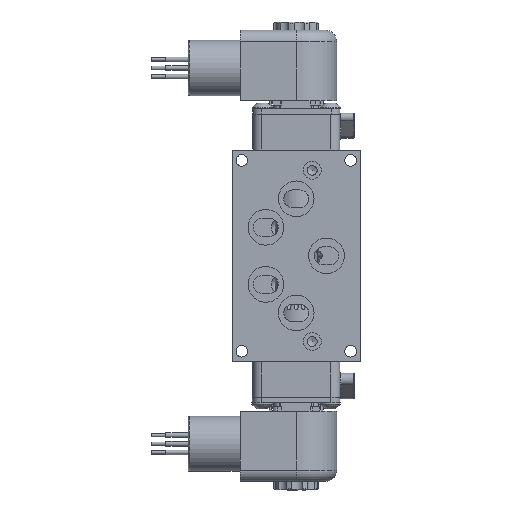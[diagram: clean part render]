
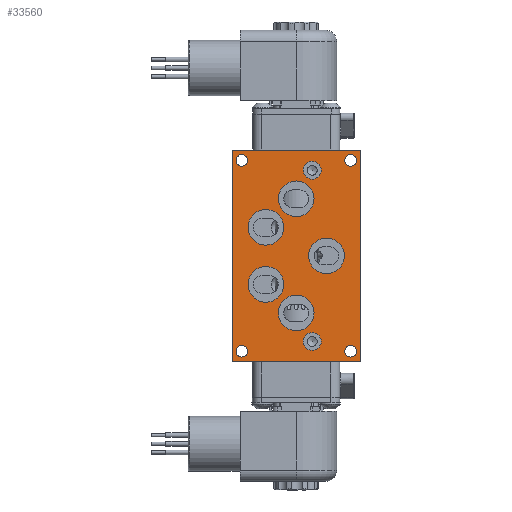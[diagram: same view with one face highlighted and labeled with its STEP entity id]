
A CAD part, front view. The second image highlights one B-rep face of the part: STEP entity #33560.
In plain terms, the highlighted planar face has unit normal (0, -1, 0).
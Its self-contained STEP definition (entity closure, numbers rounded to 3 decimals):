
#1114=FACE_BOUND('',#4889,.T.);
#1115=FACE_BOUND('',#4890,.T.);
#1116=FACE_BOUND('',#4891,.T.);
#1117=FACE_BOUND('',#4892,.T.);
#1118=FACE_BOUND('',#4893,.T.);
#1119=FACE_BOUND('',#4894,.T.);
#1120=FACE_BOUND('',#4895,.T.);
#1121=FACE_BOUND('',#4896,.T.);
#1122=FACE_BOUND('',#4897,.T.);
#1123=FACE_BOUND('',#4898,.T.);
#1124=FACE_BOUND('',#4899,.T.);
#1549=PLANE('',#36355);
#2810=FACE_OUTER_BOUND('',#4888,.T.);
#4888=EDGE_LOOP('',(#24025,#24026,#24027,#24028));
#4889=EDGE_LOOP('',(#24029));
#4890=EDGE_LOOP('',(#24030));
#4891=EDGE_LOOP('',(#24031));
#4892=EDGE_LOOP('',(#24032));
#4893=EDGE_LOOP('',(#24033));
#4894=EDGE_LOOP('',(#24034));
#4895=EDGE_LOOP('',(#24035));
#4896=EDGE_LOOP('',(#24036));
#4897=EDGE_LOOP('',(#24037));
#4898=EDGE_LOOP('',(#24038));
#4899=EDGE_LOOP('',(#24039));
#7096=CIRCLE('',#36295,0.396);
#7100=CIRCLE('',#36303,0.396);
#7102=CIRCLE('',#36308,0.794);
#7104=CIRCLE('',#36312,0.794);
#7106=CIRCLE('',#36316,0.794);
#7108=CIRCLE('',#36320,0.794);
#7110=CIRCLE('',#36324,0.794);
#7113=CIRCLE('',#36329,0.258);
#7116=CIRCLE('',#36334,0.258);
#7119=CIRCLE('',#36339,0.258);
#7122=CIRCLE('',#36344,0.258);
#8890=LINE('',#53942,#11184);
#8925=LINE('',#54100,#11219);
#9054=LINE('',#55103,#11348);
#9055=LINE('',#55107,#11349);
#11184=VECTOR('',#41641,1.);
#11219=VECTOR('',#41768,1.);
#11348=VECTOR('',#42429,1.);
#11349=VECTOR('',#42436,1.);
#13773=VERTEX_POINT('',#53938);
#13775=VERTEX_POINT('',#53941);
#13850=VERTEX_POINT('',#54096);
#13852=VERTEX_POINT('',#54099);
#14027=VERTEX_POINT('',#54984);
#14032=VERTEX_POINT('',#55000);
#14034=VERTEX_POINT('',#55009);
#14036=VERTEX_POINT('',#55016);
#14038=VERTEX_POINT('',#55023);
#14040=VERTEX_POINT('',#55030);
#14042=VERTEX_POINT('',#55037);
#14046=VERTEX_POINT('',#55049);
#14050=VERTEX_POINT('',#55061);
#14054=VERTEX_POINT('',#55073);
#14058=VERTEX_POINT('',#55085);
#17322=EDGE_CURVE('',#13775,#13773,#8890,.T.);
#17400=EDGE_CURVE('',#13852,#13850,#8925,.T.);
#17647=EDGE_CURVE('',#14027,#14027,#7096,.T.);
#17654=EDGE_CURVE('',#14032,#14032,#7100,.T.);
#17658=EDGE_CURVE('',#14034,#14034,#7102,.T.);
#17661=EDGE_CURVE('',#14036,#14036,#7104,.T.);
#17664=EDGE_CURVE('',#14038,#14038,#7106,.T.);
#17667=EDGE_CURVE('',#14040,#14040,#7108,.T.);
#17670=EDGE_CURVE('',#14042,#14042,#7110,.T.);
#17677=EDGE_CURVE('',#14046,#14046,#7113,.T.);
#17683=EDGE_CURVE('',#14050,#14050,#7116,.T.);
#17689=EDGE_CURVE('',#14054,#14054,#7119,.T.);
#17695=EDGE_CURVE('',#14058,#14058,#7122,.T.);
#17704=EDGE_CURVE('',#13850,#13775,#9054,.T.);
#17705=EDGE_CURVE('',#13773,#13852,#9055,.T.);
#24025=ORIENTED_EDGE('',*,*,#17400,.T.);
#24026=ORIENTED_EDGE('',*,*,#17704,.T.);
#24027=ORIENTED_EDGE('',*,*,#17322,.T.);
#24028=ORIENTED_EDGE('',*,*,#17705,.T.);
#24029=ORIENTED_EDGE('',*,*,#17647,.T.);
#24030=ORIENTED_EDGE('',*,*,#17654,.T.);
#24031=ORIENTED_EDGE('',*,*,#17658,.T.);
#24032=ORIENTED_EDGE('',*,*,#17661,.T.);
#24033=ORIENTED_EDGE('',*,*,#17664,.T.);
#24034=ORIENTED_EDGE('',*,*,#17667,.T.);
#24035=ORIENTED_EDGE('',*,*,#17670,.T.);
#24036=ORIENTED_EDGE('',*,*,#17677,.T.);
#24037=ORIENTED_EDGE('',*,*,#17683,.T.);
#24038=ORIENTED_EDGE('',*,*,#17689,.T.);
#24039=ORIENTED_EDGE('',*,*,#17695,.T.);
#33560=ADVANCED_FACE('',(#2810,#1114,#1115,#1116,#1117,#1118,#1119,#1120,
#1121,#1122,#1123,#1124),#1549,.T.);
#36295=AXIS2_PLACEMENT_3D('',#54985,#42285,#42286);
#36303=AXIS2_PLACEMENT_3D('',#55001,#42304,#42305);
#36308=AXIS2_PLACEMENT_3D('',#55010,#42316,#42317);
#36312=AXIS2_PLACEMENT_3D('',#55017,#42325,#42326);
#36316=AXIS2_PLACEMENT_3D('',#55024,#42334,#42335);
#36320=AXIS2_PLACEMENT_3D('',#55031,#42343,#42344);
#36324=AXIS2_PLACEMENT_3D('',#55038,#42352,#42353);
#36329=AXIS2_PLACEMENT_3D('',#55051,#42366,#42367);
#36334=AXIS2_PLACEMENT_3D('',#55063,#42379,#42380);
#36339=AXIS2_PLACEMENT_3D('',#55075,#42392,#42393);
#36344=AXIS2_PLACEMENT_3D('',#55087,#42405,#42406);
#36355=AXIS2_PLACEMENT_3D('',#55108,#42437,#42438);
#41641=DIRECTION('',(1.,0.,0.));
#41768=DIRECTION('',(-1.,0.,0.));
#42285=DIRECTION('center_axis',(0.,1.,0.));
#42286=DIRECTION('ref_axis',(1.,0.,0.));
#42304=DIRECTION('center_axis',(0.,1.,0.));
#42305=DIRECTION('ref_axis',(1.,0.,0.));
#42316=DIRECTION('center_axis',(0.,1.,0.));
#42317=DIRECTION('ref_axis',(1.,0.,0.));
#42325=DIRECTION('center_axis',(0.,1.,0.));
#42326=DIRECTION('ref_axis',(1.,0.,0.));
#42334=DIRECTION('center_axis',(0.,1.,0.));
#42335=DIRECTION('ref_axis',(1.,0.,0.));
#42343=DIRECTION('center_axis',(0.,1.,0.));
#42344=DIRECTION('ref_axis',(1.,0.,0.));
#42352=DIRECTION('center_axis',(0.,1.,0.));
#42353=DIRECTION('ref_axis',(1.,0.,0.));
#42366=DIRECTION('center_axis',(0.,1.,0.));
#42367=DIRECTION('ref_axis',(1.,0.,0.));
#42379=DIRECTION('center_axis',(0.,1.,0.));
#42380=DIRECTION('ref_axis',(1.,0.,0.));
#42392=DIRECTION('center_axis',(0.,1.,0.));
#42393=DIRECTION('ref_axis',(1.,0.,0.));
#42405=DIRECTION('center_axis',(0.,1.,0.));
#42406=DIRECTION('ref_axis',(1.,0.,0.));
#42429=DIRECTION('',(0.,0.,-1.));
#42436=DIRECTION('',(0.,0.,1.));
#42437=DIRECTION('center_axis',(0.,-1.,0.));
#42438=DIRECTION('ref_axis',(0.,0.,-1.));
#53938=CARTESIAN_POINT('',(2.858,-1.636,-4.71));
#53941=CARTESIAN_POINT('',(-2.858,-1.636,-4.71));
#53942=CARTESIAN_POINT('',(-2.858,-1.636,-4.71));
#54096=CARTESIAN_POINT('',(-2.858,-1.636,4.71));
#54099=CARTESIAN_POINT('',(2.858,-1.636,4.71));
#54100=CARTESIAN_POINT('',(-2.858,-1.636,4.71));
#54984=CARTESIAN_POINT('',(0.318,-1.636,-3.81));
#54985=CARTESIAN_POINT('Origin',(0.714,-1.636,-3.81));
#55000=CARTESIAN_POINT('',(0.318,-1.636,3.81));
#55001=CARTESIAN_POINT('Origin',(0.714,-1.636,3.81));
#55009=CARTESIAN_POINT('',(0.555,-1.636,0.));
#55010=CARTESIAN_POINT('Origin',(1.349,-1.636,0.));
#55016=CARTESIAN_POINT('',(-0.794,-1.636,-2.54));
#55017=CARTESIAN_POINT('Origin',(0.,-1.636,-2.54));
#55023=CARTESIAN_POINT('',(-0.794,-1.636,2.54));
#55024=CARTESIAN_POINT('Origin',(0.,-1.636,2.54));
#55030=CARTESIAN_POINT('',(-2.142,-1.636,-1.27));
#55031=CARTESIAN_POINT('Origin',(-1.349,-1.636,-1.27));
#55037=CARTESIAN_POINT('',(-2.142,-1.636,1.27));
#55038=CARTESIAN_POINT('Origin',(-1.349,-1.636,1.27));
#55049=CARTESIAN_POINT('',(-2.679,-1.636,4.247));
#55051=CARTESIAN_POINT('Origin',(-2.421,-1.636,4.247));
#55061=CARTESIAN_POINT('',(2.163,-1.636,4.247));
#55063=CARTESIAN_POINT('Origin',(2.421,-1.636,4.247));
#55073=CARTESIAN_POINT('',(2.163,-1.636,-4.247));
#55075=CARTESIAN_POINT('Origin',(2.421,-1.636,-4.247));
#55085=CARTESIAN_POINT('',(-2.679,-1.636,-4.247));
#55087=CARTESIAN_POINT('Origin',(-2.421,-1.636,-4.247));
#55103=CARTESIAN_POINT('',(-2.858,-1.636,0.));
#55107=CARTESIAN_POINT('',(2.858,-1.636,0.));
#55108=CARTESIAN_POINT('Origin',(2.858,-1.636,0.));
